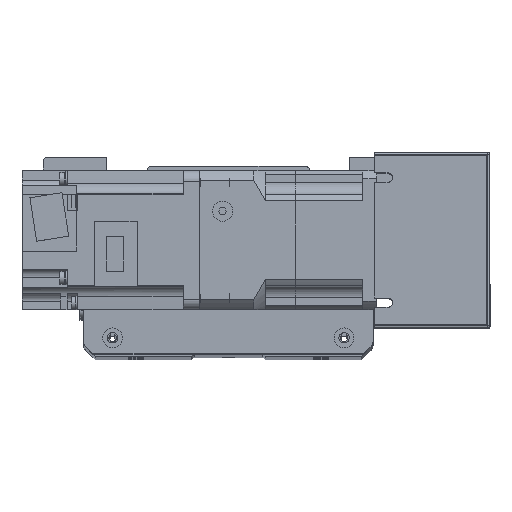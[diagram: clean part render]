
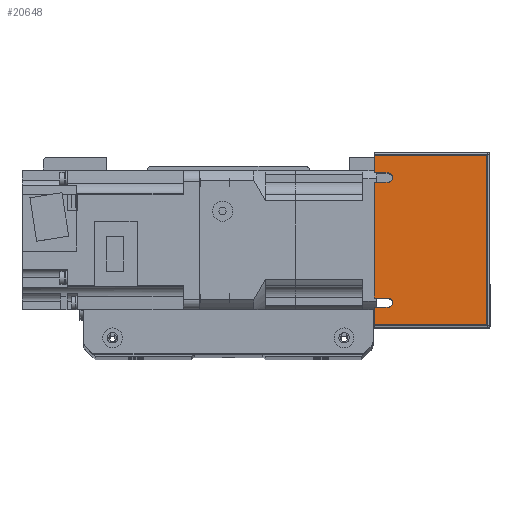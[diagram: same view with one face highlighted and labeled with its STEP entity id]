
A CAD part, top view. The second image highlights one B-rep face of the part: STEP entity #20648.
In plain terms, the highlighted planar face has unit normal (0, 0, 1) as drawn and (-1, 0, 0) by its records, which use the part's own axes.
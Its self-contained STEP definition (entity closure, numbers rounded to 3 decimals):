
#665=PLANE('',#22829);
#1995=LINE('',#34517,#3619);
#2002=LINE('',#34533,#3626);
#2011=LINE('',#34553,#3635);
#2019=LINE('',#34571,#3643);
#2034=LINE('',#34614,#3658);
#2036=LINE('',#34621,#3660);
#2039=LINE('',#34630,#3663);
#2044=LINE('',#34644,#3668);
#2045=LINE('',#34646,#3669);
#2046=LINE('',#34647,#3670);
#3619=VECTOR('',#28092,10.);
#3626=VECTOR('',#28103,10.);
#3635=VECTOR('',#28116,10.);
#3643=VECTOR('',#28128,10.);
#3658=VECTOR('',#28173,10.);
#3660=VECTOR('',#28181,10.);
#3663=VECTOR('',#28190,10.);
#3668=VECTOR('',#28203,10.);
#3669=VECTOR('',#28204,10.);
#3670=VECTOR('',#28205,10.);
#5982=FACE_OUTER_BOUND('',#7578,.T.);
#7578=EDGE_LOOP('',(#17934,#17935,#17936,#17937,#17938,#17939,#17940,#17941,
#17942,#17943,#17944,#17945));
#8712=CIRCLE('',#22808,2.);
#8717=CIRCLE('',#22816,2.);
#10393=VERTEX_POINT('',#34514);
#10394=VERTEX_POINT('',#34516);
#10400=VERTEX_POINT('',#34530);
#10401=VERTEX_POINT('',#34532);
#10409=VERTEX_POINT('',#34550);
#10410=VERTEX_POINT('',#34552);
#10417=VERTEX_POINT('',#34568);
#10418=VERTEX_POINT('',#34570);
#10431=VERTEX_POINT('',#34613);
#10436=VERTEX_POINT('',#34628);
#10441=VERTEX_POINT('',#34643);
#10442=VERTEX_POINT('',#34645);
#12937=EDGE_CURVE('',#10393,#10394,#1995,.T.);
#12944=EDGE_CURVE('',#10400,#10401,#2002,.T.);
#12953=EDGE_CURVE('',#10409,#10410,#2011,.T.);
#12961=EDGE_CURVE('',#10417,#10418,#2019,.T.);
#12968=EDGE_CURVE('',#10401,#10393,#8712,.T.);
#12979=EDGE_CURVE('',#10418,#10409,#8717,.T.);
#12985=EDGE_CURVE('',#10431,#10410,#2034,.T.);
#12989=EDGE_CURVE('',#10417,#10394,#2036,.T.);
#12994=EDGE_CURVE('',#10400,#10436,#2039,.T.);
#13001=EDGE_CURVE('',#10436,#10441,#2044,.T.);
#13002=EDGE_CURVE('',#10441,#10442,#2045,.T.);
#13003=EDGE_CURVE('',#10442,#10431,#2046,.T.);
#17934=ORIENTED_EDGE('',*,*,#12937,.F.);
#17935=ORIENTED_EDGE('',*,*,#12968,.F.);
#17936=ORIENTED_EDGE('',*,*,#12944,.F.);
#17937=ORIENTED_EDGE('',*,*,#12994,.T.);
#17938=ORIENTED_EDGE('',*,*,#13001,.T.);
#17939=ORIENTED_EDGE('',*,*,#13002,.T.);
#17940=ORIENTED_EDGE('',*,*,#13003,.T.);
#17941=ORIENTED_EDGE('',*,*,#12985,.T.);
#17942=ORIENTED_EDGE('',*,*,#12953,.F.);
#17943=ORIENTED_EDGE('',*,*,#12979,.F.);
#17944=ORIENTED_EDGE('',*,*,#12961,.F.);
#17945=ORIENTED_EDGE('',*,*,#12989,.T.);
#20648=ADVANCED_FACE('',(#5982),#665,.F.);
#22808=AXIS2_PLACEMENT_3D('',#34584,#28140,#28141);
#22816=AXIS2_PLACEMENT_3D('',#34602,#28162,#28163);
#22829=AXIS2_PLACEMENT_3D('',#34642,#28201,#28202);
#28092=DIRECTION('',(0.,0.,-1.));
#28103=DIRECTION('',(0.,0.,1.));
#28116=DIRECTION('',(0.,0.,-1.));
#28128=DIRECTION('',(0.,0.,1.));
#28140=DIRECTION('center_axis',(-1.,0.,0.));
#28141=DIRECTION('ref_axis',(0.,0.,-1.));
#28162=DIRECTION('center_axis',(-1.,0.,0.));
#28163=DIRECTION('ref_axis',(0.,0.,-1.));
#28173=DIRECTION('',(0.,-1.,0.));
#28181=DIRECTION('',(0.,-1.,0.));
#28190=DIRECTION('',(0.,-1.,0.));
#28201=DIRECTION('center_axis',(1.,0.,0.));
#28202=DIRECTION('ref_axis',(0.,-1.,0.));
#28203=DIRECTION('',(0.,0.,1.));
#28204=DIRECTION('',(0.,1.,0.));
#28205=DIRECTION('',(0.,0.,-1.));
#34514=CARTESIAN_POINT('',(-91.,-25.,-19.));
#34516=CARTESIAN_POINT('',(-91.,-25.,-25.));
#34517=CARTESIAN_POINT('',(-91.,-25.,-9.5));
#34530=CARTESIAN_POINT('',(-91.,-29.,-25.));
#34532=CARTESIAN_POINT('',(-91.,-29.,-19.));
#34533=CARTESIAN_POINT('',(-91.,-29.,-15.178));
#34550=CARTESIAN_POINT('',(-91.,29.,-19.));
#34552=CARTESIAN_POINT('',(-91.,29.,-25.));
#34553=CARTESIAN_POINT('',(-91.,29.,-9.5));
#34568=CARTESIAN_POINT('',(-91.,25.,-25.));
#34570=CARTESIAN_POINT('',(-91.,25.,-19.));
#34571=CARTESIAN_POINT('',(-91.,25.,-15.178));
#34584=CARTESIAN_POINT('Origin',(-91.,-27.,-19.));
#34602=CARTESIAN_POINT('Origin',(-91.,27.,-19.));
#34613=CARTESIAN_POINT('',(-91.,37.,-25.));
#34614=CARTESIAN_POINT('',(-91.,-38.,-25.));
#34621=CARTESIAN_POINT('',(-91.,-38.,-25.));
#34628=CARTESIAN_POINT('',(-91.,-37.,-25.));
#34630=CARTESIAN_POINT('',(-91.,-38.,-25.));
#34642=CARTESIAN_POINT('Origin',(-91.,38.,0.));
#34643=CARTESIAN_POINT('',(-91.,-37.,24.));
#34644=CARTESIAN_POINT('',(-91.,-37.,0.));
#34645=CARTESIAN_POINT('',(-91.,37.,24.));
#34646=CARTESIAN_POINT('',(-91.,19.,24.));
#34647=CARTESIAN_POINT('',(-91.,37.,0.));
